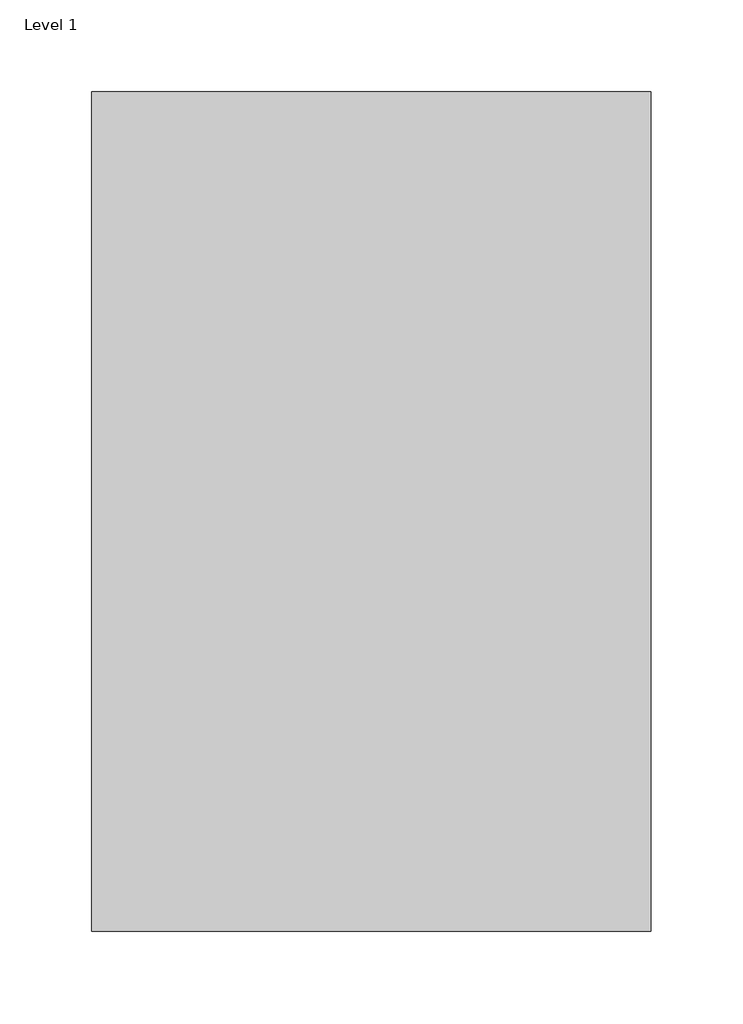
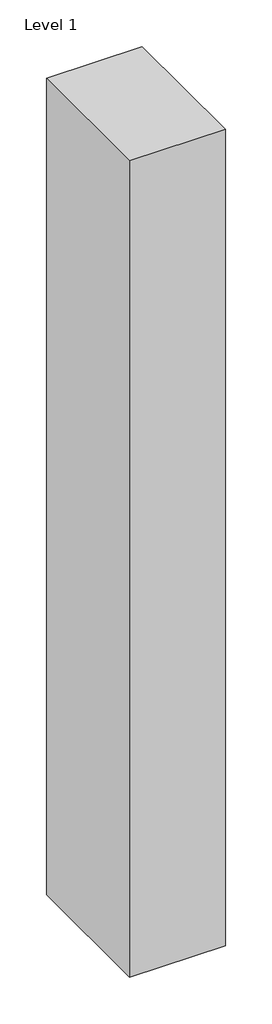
# One storey: 1 column.
"""IFC4 building model written with IfcOpenShell, lengths in millimetres."""

from ifc_helpers import new_model, si_unit, origin, place, context, project, spatial, transform, mapped, element, save
from components import concrete_rectangular_column_12_x_18_d53c0298

model = new_model("IFC4")

# Units and contexts
model_context = context("Model", 3, world=origin())
ifc_project = project(units=[si_unit("LENGTHUNIT", "METRE", prefix="MILLI")], contexts=[model_context])

# Site, building, storey
site = spatial("IfcSite", under=ifc_project)
building = spatial("IfcBuilding", under=site)
storey = spatial("IfcBuildingStorey", under=building, Name="Level 1", Elevation=0.0)

# Column
placement = place(None, origin())
concrete_rectangular_column_12_x_18_shape = concrete_rectangular_column_12_x_18_d53c0298(model_context)
element("IfcColumn", 1, ObjectType="Concrete-Rectangular-Column : 12 x 18", at=placement, inside=storey, context=model_context, shape_type="MappedRepresentation", body=[
    mapped(concrete_rectangular_column_12_x_18_shape, transform((-11367.7423607, 12497.6734534, 0.0), x_axis=(1.0, 0.0, 0.0), y_axis=(0.0, 1.0, 0.0), z_axis=(0.0, 0.0, 1.0))),
])

save(model, "model.ifc")
